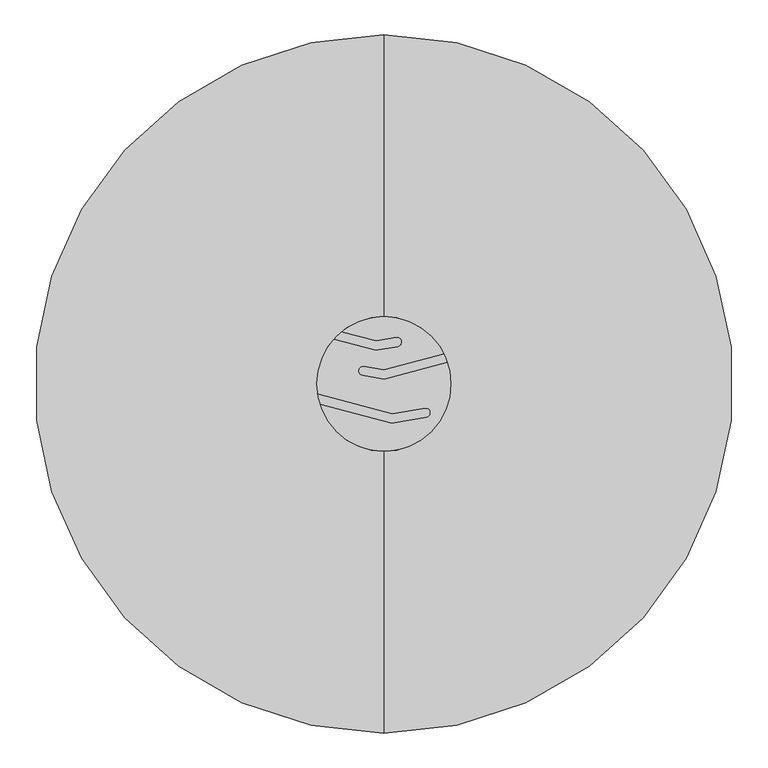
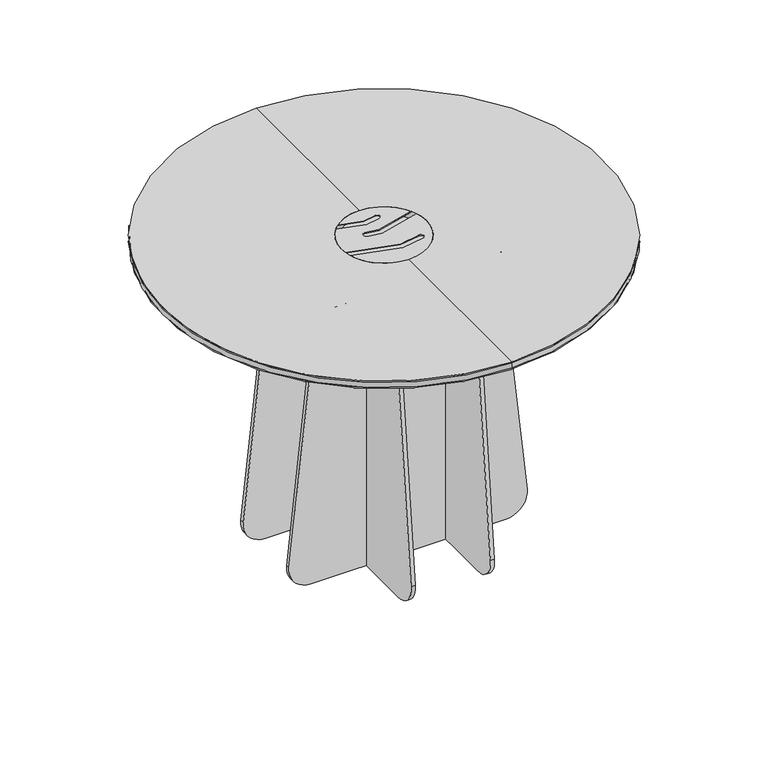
"""IFC4 building model written with IfcOpenShell, lengths in millimetres: furniture geometry, Lundbergs Möbler - Funghi - Table - Round - Ø150 - H105 : Lundbergs Möbler - Funghi - Table - Round - Ø150 - H105."""

from ifc_helpers import new_model, si_unit, point, frame, frame_2d, origin, origin_2d, place, context, project, spatial, polyline, circle_curve, ellipse_curve, trimmed, segment, composite_curve, outline, extrude, source, transform, mapped, element, save
from ifc_brep_helpers import plane_surface, cylinder_surface, revolved_surface, advanced_brep


def furniture_c6f4b0c9(model_context):
    return source(origin(), model_context, "Body", "SolidModel", [
        extrude(outline(composite_curve([segment(trimmed(circle_curve(frame_2d((1018.3873965, 196.2845895)), 8.5), [point((1009.8873965, 196.2845895))], [point((1018.3873965, 204.7845895))], False, "CARTESIAN"), True, "CONTINUOUS"), segment(polyline([(1018.3873965, 204.7845895), (1020.000378, 204.7845895), (1020.000378, -204.7845895), (1018.3873965, -204.7845895)]), True, "CONTINUOUS"), segment(trimmed(circle_curve(frame_2d((1018.3873965, -196.2845895)), 8.5), [point((1018.3873965, -204.7845895))], [point((1009.8873965, -196.2845895))], False, "CARTESIAN"), True, "CONTINUOUS"), segment(polyline([(1009.8873965, -196.2845895), (1009.8873965, 196.2845895)]), True, "CONTINUOUS")], self_intersect=False)), frame((0.0, 242.5896085, 0.0), z_axis=(0.0, 1.0, 0.0), x_axis=(0.0, 0.0, 1.0)), (0.0, 0.0, 1.0), 40.0000216),
        extrude(outline(composite_curve([segment(trimmed(circle_curve(frame_2d((-196.2845895, 1018.3873965)), 8.5), [point((-196.2845895, 1009.8873965))], [point((-204.7845895, 1018.3873965))], False, "CARTESIAN"), True, "CONTINUOUS"), segment(polyline([(-204.7845895, 1018.3873965), (-204.7845895, 1020.000378), (204.7845895, 1020.000378), (204.7845895, 1018.3873965)]), True, "CONTINUOUS"), segment(trimmed(circle_curve(frame_2d((196.2845895, 1018.3873965)), 8.5), [point((204.7845895, 1018.3873965))], [point((196.2845895, 1009.8873965))], False, "CARTESIAN"), True, "CONTINUOUS"), segment(polyline([(196.2845895, 1009.8873965), (-196.2845895, 1009.8873965)]), True, "CONTINUOUS")], self_intersect=False)), frame((242.5896085, 0.0, 0.0), z_axis=(1.0, 0.0, 0.0), x_axis=(0.0, 1.0, 0.0)), (0.0, 0.0, 1.0), 40.0000216),
        extrude(outline(composite_curve([segment(trimmed(circle_curve(frame_2d((-196.2845895, 1018.3873965)), 8.5), [point((-196.2845895, 1009.8873965))], [point((-204.7845895, 1018.3873965))], False, "CARTESIAN"), True, "CONTINUOUS"), segment(polyline([(-204.7845895, 1018.3873965), (-204.7845895, 1020.000378), (204.7845895, 1020.000378), (204.7845895, 1018.3873965)]), True, "CONTINUOUS"), segment(trimmed(circle_curve(frame_2d((196.2845895, 1018.3873965)), 8.5), [point((204.7845895, 1018.3873965))], [point((196.2845895, 1009.8873965))], False, "CARTESIAN"), True, "CONTINUOUS"), segment(polyline([(196.2845895, 1009.8873965), (-196.2845895, 1009.8873965)]), True, "CONTINUOUS")], self_intersect=False)), frame((-282.5896301, 0.0, 0.0), z_axis=(1.0, 0.0, 0.0), x_axis=(0.0, 1.0, 0.0)), (0.0, 0.0, 1.0), 40.0000216),
        extrude(outline(composite_curve([segment(trimmed(circle_curve(frame_2d((1018.3873965, 196.2845895)), 8.5), [point((1009.8873965, 196.2845895))], [point((1018.3873965, 204.7845895))], False, "CARTESIAN"), True, "CONTINUOUS"), segment(polyline([(1018.3873965, 204.7845895), (1020.000378, 204.7845895), (1020.000378, -204.7845895), (1018.3873965, -204.7845895)]), True, "CONTINUOUS"), segment(trimmed(circle_curve(frame_2d((1018.3873965, -196.2845895)), 8.5), [point((1018.3873965, -204.7845895))], [point((1009.8873965, -196.2845895))], False, "CARTESIAN"), True, "CONTINUOUS"), segment(polyline([(1009.8873965, -196.2845895), (1009.8873965, 196.2845895)]), True, "CONTINUOUS")], self_intersect=False)), frame((0.0, -282.5896301, 0.0), z_axis=(0.0, 1.0, 0.0), x_axis=(0.0, 0.0, 1.0)), (0.0, 0.0, 1.0), 40.0000216),
        advanced_brep(
        [(-145.0, 0.0, 1022.6632789), (145.0, 0.0, 1022.6632789), (-145.0, 0.0, 1050.0), (0.0, -145.0, 1050.0), (145.0, 0.0, 1050.0), (0.0, 145.0, 1050.0), (0.0, -750.0, 1027.5331539), (0.0, 750.0, 1027.5331539), (0.0, 742.5, 1020.0331539), (0.0, -742.5, 1020.0331539), (0.0, -750.0, 1045.0331674), (0.0, 750.0, 1045.0331674), (0.0, -750.0, 1050.0), (0.0, 750.0, 1050.0), (0.0, 0.0, 1020.0331539)],
        [
            (0, 1, circle_curve(frame((0.0, 0.0, 1022.6632789), z_axis=(0.0, 0.0, 1.0), x_axis=(1.0, 0.0, 0.0)), 145.0)),
            (1, 0, circle_curve(frame((0.0, 0.0, 1022.6632789), z_axis=(0.0, 0.0, 1.0), x_axis=(1.0, 0.0, 0.0)), 145.0)),
            (0, 2),
            (2, 3, circle_curve(frame((0.0, 0.0, 1050.0), z_axis=(0.0, 0.0, 1.0), x_axis=(1.0, 0.0, 0.0)), 145.0)),
            (3, 4, circle_curve(frame((0.0, 0.0, 1050.0), z_axis=(0.0, 0.0, 1.0), x_axis=(1.0, 0.0, 0.0)), 145.0)),
            (4, 1),
            (4, 5, circle_curve(frame((0.0, 0.0, 1050.0), z_axis=(0.0, 0.0, 1.0), x_axis=(1.0, 0.0, 0.0)), 145.0)),
            (5, 2, circle_curve(frame((0.0, 0.0, 1050.0), z_axis=(0.0, 0.0, 1.0), x_axis=(1.0, 0.0, 0.0)), 145.0)),
            (6, 7, circle_curve(frame((0.0, 0.0, 1027.5331539), z_axis=(0.0, 0.0, -1.0), x_axis=(0.0, 1.0, 0.0)), 750.0)),
            (7, 8, circle_curve(frame((0.0, 742.5, 1027.5331539), z_axis=(-1.0, 0.0, 0.0), x_axis=(0.0, -1.0, 0.0)), 7.5)),
            (8, 9, circle_curve(frame((0.0, 0.0, 1020.0331539), z_axis=(0.0, 0.0, 1.0), x_axis=(0.0, 1.0, 0.0)), 742.5)),
            (9, 6, circle_curve(frame((0.0, -742.5, 1027.5331539), z_axis=(-1.0, 0.0, 0.0), x_axis=(0.0, 1.0, 0.0)), 7.5)),
            (7, 6, circle_curve(frame((0.0, 0.0, 1027.5331539), z_axis=(0.0, 0.0, -1.0), x_axis=(0.0, 1.0, 0.0)), 750.0)),
            (9, 8, circle_curve(frame((0.0, 0.0, 1020.0331539), z_axis=(0.0, 0.0, 1.0), x_axis=(0.0, 1.0, 0.0)), 742.5)),
            (6, 10),
            (10, 11, circle_curve(frame((0.0, 0.0, 1045.0331674), z_axis=(0.0, 0.0, -1.0), x_axis=(0.0, 1.0, 0.0)), 750.0)),
            (11, 7),
            (11, 10, circle_curve(frame((0.0, 0.0, 1045.0331674), z_axis=(0.0, 0.0, -1.0), x_axis=(0.0, 1.0, 0.0)), 750.0)),
            (10, 12),
            (12, 13, circle_curve(frame((0.0, 0.0, 1050.0), z_axis=(0.0, 0.0, -1.0), x_axis=(0.0, 1.0, 0.0)), 750.0)),
            (13, 11),
            (13, 12, circle_curve(frame((0.0, 0.0, 1050.0), z_axis=(0.0, 0.0, -1.0), x_axis=(0.0, 1.0, 0.0)), 750.0)),
            (12, 3),
            (5, 13),
            (8, 14),
            (14, 9),
        ],
        [
            plane_surface(frame((145.0, 0.0, 1022.6632789), z_axis=(0.0, 0.0, 1.0), x_axis=(0.0, -1.0, 0.0))),
            revolved_surface(polyline([(145.0, 0.0, 1050.0), (145.0, 0.0, 1022.6632789)]), (0.0, 0.0, 1022.6632789), (0.0, 0.0, 1.0)),
            revolved_surface(trimmed(ellipse_curve(frame((0.0, 742.5, 1027.5331539), z_axis=(1.0, 0.0, 0.0), x_axis=(0.0, -1.0, 0.0)), 7.5, 7.5), [point((0.0, 742.5, 1020.0331539))], [point((0.0, 750.0, 1027.5331539))], True, "CARTESIAN"), (0.0, 0.0, 1300.0), (0.0, 0.0, 1.0)),
            cylinder_surface(frame((0.0, 0.0, 1300.0), z_axis=(0.0, 0.0, 1.0), x_axis=(0.0, 1.0, 0.0)), 750.0),
            plane_surface(frame((0.0, 0.0, 1050.0), z_axis=(0.0, 0.0, 1.0), x_axis=(0.0, 1.0, 0.0))),
            plane_surface(frame((0.0, 0.0, 1020.0331539), z_axis=(0.0, 0.0, -1.0), x_axis=(0.0, 1.0, 0.0))),
        ],
        [
            (0, [[1, 2]]),
            (1, [[-1, 3, 4, 5, 6]]),
            (1, [[-2, -6, 7, 8, -3]]),
            (2, [[9, 10, 11, 12]]),
            (2, [[-10, 13, -12, 14]]),
            (3, [[-9, 15, 16, 17]]),
            (3, [[-13, -17, 18, -15]]),
            (3, [[-16, 19, 20, 21]]),
            (3, [[-18, -21, 22, -19]]),
            (4, [[-20, 23, -4, -8, 24]]),
            (4, [[-22, -24, -7, -5, -23]]),
            (5, [[-11, 25, 26]]),
            (5, [[-14, -26, -25]]),
        ],
    ),
        extrude(outline(composite_curve([segment(trimmed(circle_curve(origin_2d(), 145.0), [point((-143.4635973, -21.0522268))], [point((-108.3690688, 96.338699))], False, "CARTESIAN"), True, "CONTINUOUS"), segment(polyline([(-108.3690688, 96.338699), (-17.217028, 71.9145833), (30.2144383, 80.2780306)]), True, "CONTINUOUS"), segment(trimmed(circle_curve(frame_2d((28.4779566, 90.1261081)), 10.0), [point((30.2144383, 80.2780306))], [point((26.7414748, 99.9741856))], True, "CARTESIAN"), True, "CONTINUOUS"), segment(polyline([(26.7414748, 99.9741856), (-16.3234591, 92.3806759), (-91.463255, 112.5143235)]), True, "CONTINUOUS"), segment(trimmed(circle_curve(origin_2d(), 145.0), [point((-91.463255, 112.5143235))], [point((129.5098534, 65.2088788))], False, "CARTESIAN"), True, "CONTINUOUS"), segment(polyline([(129.5098534, 65.2088788), (0.0, 30.5068182), (-43.0649339, 38.1003279)]), True, "CONTINUOUS"), segment(trimmed(circle_curve(frame_2d((-44.8014157, 28.2522504)), 10.0), [point((-43.0649339, 38.1003279))], [point((-46.5378975, 18.4041729))], True, "CARTESIAN"), True, "CONTINUOUS"), segment(polyline([(-46.5378975, 18.4041729), (0.8935689, 10.0407256), (137.3100639, 46.5934153)]), True, "CONTINUOUS"), segment(trimmed(circle_curve(origin_2d(), 145.0), [point((137.3100639, 46.5934153))], [point((-138.4456235, -43.1023124))], False, "CARTESIAN"), True, "CONTINUOUS"), segment(polyline([(-138.4456235, -43.1023124), (16.9662998, -84.7448118), (91.5378975, -71.5958271)]), True, "CONTINUOUS"), segment(trimmed(circle_curve(frame_2d((89.8014157, -61.7477496)), 10.0), [point((91.5378975, -71.5958271))], [point((88.0649339, -51.8996721))], True, "CARTESIAN"), True, "CONTINUOUS"), segment(polyline([(88.0649339, -51.8996721), (17.8598687, -64.2787192), (-143.4635973, -21.0522268)]), True, "CONTINUOUS")], self_intersect=False)), frame((0.0, 0.0, 1047.525898), z_axis=(0.0, 0.0, 1.0), x_axis=(1.0, 0.0, 0.0)), (0.0, 0.0, 1.0), 2.474102),
        extrude(outline(composite_curve([segment(trimmed(circle_curve(frame_2d((328.9885604, 75.0)), 75.0), [point((403.5717494, 82.8960696))], [point((328.9885604, 0.0))], False, "CARTESIAN"), True, "CONTINUOUS"), segment(polyline([(328.9885604, 0.0), (-328.9885604, 0.0)]), True, "CONTINUOUS"), segment(trimmed(circle_curve(frame_2d((-328.9885604, 75.0)), 75.0), [point((-328.9885604, 0.0))], [point((-403.5717494, 82.8960696))], False, "CARTESIAN"), True, "CONTINUOUS"), segment(polyline([(-403.5717494, 82.8960696), (-304.3611776, 1020.000378), (304.3611776, 1020.000378), (403.5717494, 82.8960696)]), True, "CONTINUOUS")], self_intersect=False)), frame((127.6465142, 0.0, 0.0), z_axis=(1.0, 0.0, 0.0), x_axis=(0.0, 1.0, 0.0)), (0.0, 0.0, 1.0), 13.4999997),
        extrude(outline(composite_curve([segment(trimmed(circle_curve(frame_2d((328.9885604, 75.0)), 75.0), [point((403.5717494, 82.8960696))], [point((328.9885604, 0.0))], False, "CARTESIAN"), True, "CONTINUOUS"), segment(polyline([(328.9885604, 0.0), (-328.9885604, 0.0)]), True, "CONTINUOUS"), segment(trimmed(circle_curve(frame_2d((-328.9885604, 75.0)), 75.0), [point((-328.9885604, 0.0))], [point((-403.5717494, 82.8960696))], False, "CARTESIAN"), True, "CONTINUOUS"), segment(polyline([(-403.5717494, 82.8960696), (-304.3611776, 1020.000378), (304.3611776, 1020.000378), (403.5717494, 82.8960696)]), True, "CONTINUOUS")], self_intersect=False)), frame((-141.1465138, 0.0, 0.0), z_axis=(1.0, 0.0, 0.0), x_axis=(0.0, 1.0, 0.0)), (0.0, 0.0, 1.0), 13.4999997),
        extrude(outline(composite_curve([segment(trimmed(circle_curve(frame_2d((75.0, -328.9885604)), 75.0), [point((82.8960696, -403.5717494))], [point((0.0, -328.9885604))], False, "CARTESIAN"), True, "CONTINUOUS"), segment(polyline([(0.0, -328.9885604), (0.0, 328.9885604)]), True, "CONTINUOUS"), segment(trimmed(circle_curve(frame_2d((75.0, 328.9885604)), 75.0), [point((0.0, 328.9885604))], [point((82.8960696, 403.5717494))], False, "CARTESIAN"), True, "CONTINUOUS"), segment(polyline([(82.8960696, 403.5717494), (1020.000378, 304.3611776), (1020.000378, -304.3611776), (82.8960696, -403.5717494)]), True, "CONTINUOUS")], self_intersect=False)), frame((0.0, 127.6465142, 0.0), z_axis=(0.0, 1.0, 0.0), x_axis=(0.0, 0.0, 1.0)), (0.0, 0.0, 1.0), 13.4999997),
        extrude(outline(composite_curve([segment(trimmed(circle_curve(frame_2d((75.0, -328.9885604)), 75.0), [point((82.8960696, -403.5717494))], [point((0.0, -328.9885604))], False, "CARTESIAN"), True, "CONTINUOUS"), segment(polyline([(0.0, -328.9885604), (0.0, 328.9885604)]), True, "CONTINUOUS"), segment(trimmed(circle_curve(frame_2d((75.0, 328.9885604)), 75.0), [point((0.0, 328.9885604))], [point((82.8960696, 403.5717494))], False, "CARTESIAN"), True, "CONTINUOUS"), segment(polyline([(82.8960696, 403.5717494), (1020.000378, 304.3611776), (1020.000378, -304.3611776), (82.8960696, -403.5717494)]), True, "CONTINUOUS")], self_intersect=False)), frame((0.0, -141.1465138, 0.0), z_axis=(0.0, 1.0, 0.0), x_axis=(0.0, 0.0, 1.0)), (0.0, 0.0, 1.0), 13.4999997),
    ])


if __name__ == "__main__":
    model = new_model("IFC4")
    model_context = context("Model", 3, world=origin())
    ifc_project = project(units=[si_unit("LENGTHUNIT", "METRE", prefix="MILLI")], contexts=[model_context])
    site = spatial("IfcSite", under=ifc_project)
    building = spatial("IfcBuilding", under=site)
    placement = place(None, origin())
    furniture_shape = furniture_c6f4b0c9(model_context)
    element("IfcFurniture", 1, ObjectType="Lundbergs Möbler - Funghi - Table - Round - Ø150 - H105 : Lundbergs Möbler - Funghi - Table - Round - Ø150 - H105", at=placement, inside=building, context=model_context, shape_type="MappedRepresentation", body=[
        mapped(furniture_shape, transform((0.0, 0.0, 0.0), x_axis=(1.0, 0.0, 0.0), y_axis=(0.0, 1.0, 0.0), z_axis=(0.0, 0.0, 1.0))),
    ])
    save(model, "model.ifc")
